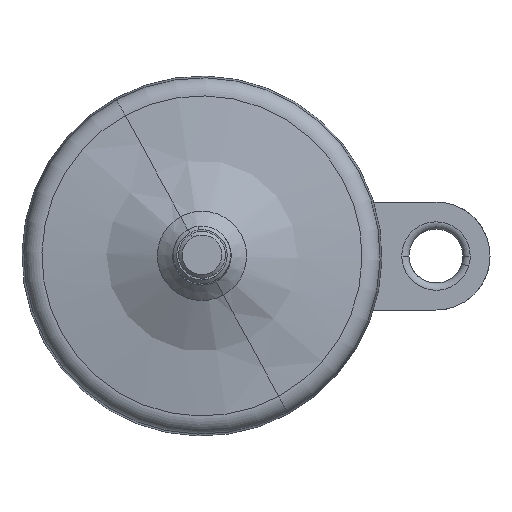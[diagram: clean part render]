
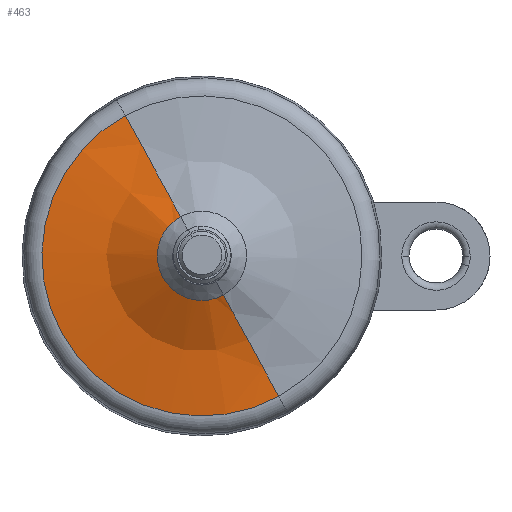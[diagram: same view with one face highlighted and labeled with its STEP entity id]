
A CAD part, top view. The second image highlights one B-rep face of the part: STEP entity #463.
In plain terms, the highlighted face is a revolution surface.
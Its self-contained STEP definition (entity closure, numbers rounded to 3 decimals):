
#463=ADVANCED_FACE('',(#1247),#1248,.T.);
#763=EDGE_CURVE('',#1279,#1708,#1709,.F.);
#819=EDGE_CURVE('',#1779,#1708,#1780,.T.);
#859=EDGE_CURVE('',#1280,#1279,#1836,.T.);
#1077=EDGE_CURVE('',#1280,#1779,#2099,.F.);
#1247=FACE_OUTER_BOUND('',#2293,.T.);
#1248=SURFACE_OF_REVOLUTION('',#2294,#2295);
#1279=VERTEX_POINT('',#2334);
#1280=VERTEX_POINT('',#2335);
#1708=VERTEX_POINT('',#2923);
#1709=CIRCLE('',#2924,65.0);
#1779=VERTEX_POINT('',#3014);
#1780=CIRCLE('',#3015,10.0);
#1836=CIRCLE('',#3087,44.46);
#2099=CIRCLE('',#3460,65.0);
#2293=EDGE_LOOP('',(#3666,#3667,#3668,#3669));
#2294=B_SPLINE_CURVE_WITH_KNOTS('',4,(#3670,#3671,#3672,#3673,#3674),.UNSPECIFIED.,.F.,.F.,(5,5),(-137.804,-101.576),.UNSPECIFIED.);
#2295=AXIS1_PLACEMENT('',#3675,#3676);
#2334=CARTESIAN_POINT('',(21.315,-39.017,20.));
#2335=CARTESIAN_POINT('',(-21.315,39.017,20.));
#2923=CARTESIAN_POINT('',(4.794,-8.776,29.559));
#2924=AXIS2_PLACEMENT_3D('',#4312,#4313,#4314);
#3014=CARTESIAN_POINT('',(-4.794,8.776,29.559));
#3015=AXIS2_PLACEMENT_3D('',#4431,#4432,#4433);
#3087=AXIS2_PLACEMENT_3D('',#4522,#4523,#4524);
#3460=AXIS2_PLACEMENT_3D('',#4999,#5000,#5001);
#3666=ORIENTED_EDGE('',*,*,#763,.T.);
#3667=ORIENTED_EDGE('',*,*,#819,.F.);
#3668=ORIENTED_EDGE('',*,*,#1077,.F.);
#3669=ORIENTED_EDGE('',*,*,#859,.T.);
#3670=CARTESIAN_POINT('',(-4.794,8.776,29.559));
#3671=CARTESIAN_POINT('',(-8.498,15.555,24.83));
#3672=CARTESIAN_POINT('',(-12.623,23.107,21.537));
#3673=CARTESIAN_POINT('',(-16.973,31.069,19.927));
#3674=CARTESIAN_POINT('',(-21.315,39.017,20.));
#3675=CARTESIAN_POINT('',(0.0,0.0,29.559));
#3676=DIRECTION('',(-0.0,-0.0,-1.0));
#4312=CARTESIAN_POINT('',(21.063,-38.556,84.998));
#4313=DIRECTION('',(-0.878,-0.479,0.0));
#4314=DIRECTION('',(0.479,-0.878,0.0));
#4431=CARTESIAN_POINT('',(0.0,0.0,29.559));
#4432=DIRECTION('',(0.0,0.0,1.0));
#4433=DIRECTION('',(1.0,0.0,0.0));
#4522=CARTESIAN_POINT('',(0.0,0.0,20.));
#4523=DIRECTION('',(0.0,0.0,1.0));
#4524=DIRECTION('',(1.0,0.0,0.0));
#4999=CARTESIAN_POINT('',(-21.063,38.556,84.998));
#5000=DIRECTION('',(0.878,0.479,0.0));
#5001=DIRECTION('',(0.479,-0.878,0.0));
